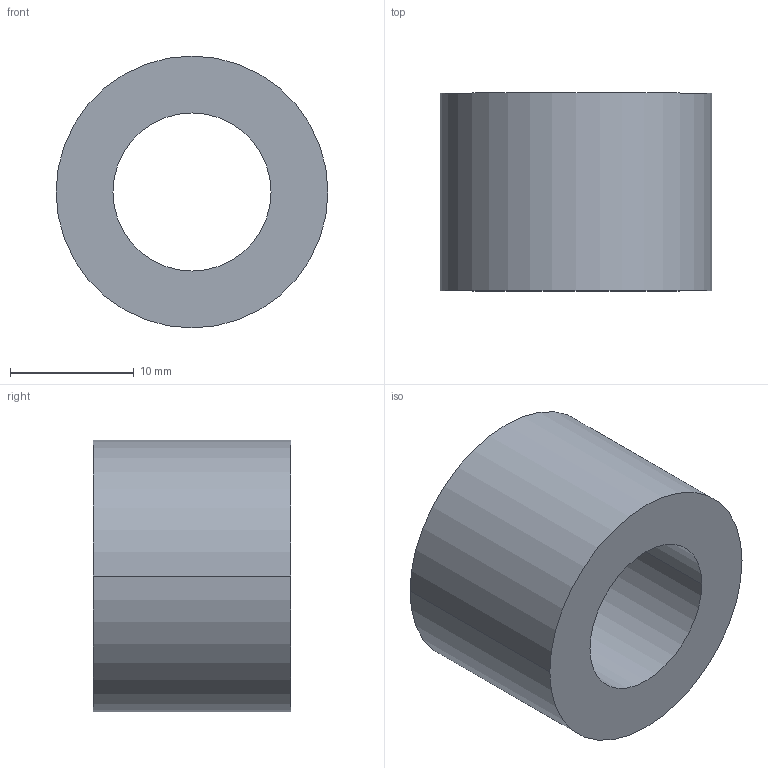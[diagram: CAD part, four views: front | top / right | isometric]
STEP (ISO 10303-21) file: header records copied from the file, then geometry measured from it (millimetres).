
FILE_DESCRIPTION (( 'STEP AP203' ), '1' );
FILE_NAME ('30800.WPP22F12.8.step', '2019-01-23T22:40:12', ( '' ), ( '' ), 'SwSTEP 2.0', 'SolidWorks 2017', '' );
FILE_SCHEMA (( 'CONFIG_CONTROL_DESIGN' ));
Length unit declared in the file: millimetre
Products named in the file (1): 30800.WPP22F12.8
Bounding box: 22 x 16 x 22 mm (x, y, z)
Volume: 3986.3 mm3; surface area: 2219.4 mm2
Topology: 1 solids, 1 shells, 8 faces, 16 edges, 10 vertices
Faces by surface type: cylinder 4, torus 2, plane 2
Entity records: 297 total; most frequent: DIRECTION 46, CARTESIAN_POINT 35, ORIENTED_EDGE 32, AXIS2_PLACEMENT_3D 21, EDGE_CURVE 16, CIRCLE 12, VERTEX_POINT 10, EDGE_LOOP 10
